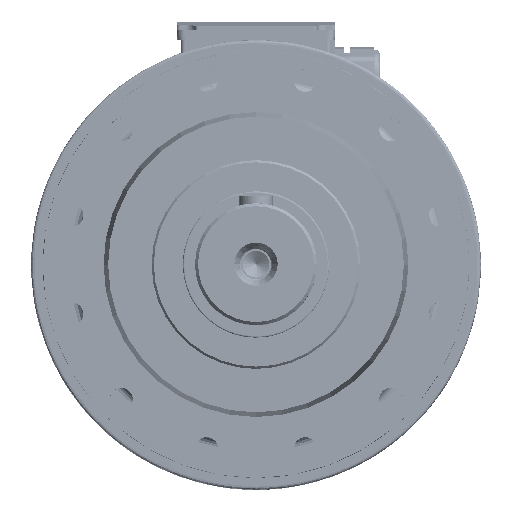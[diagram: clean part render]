
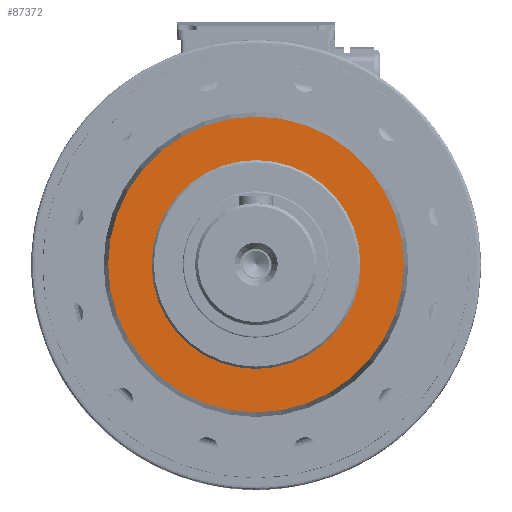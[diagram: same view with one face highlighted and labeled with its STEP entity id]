
A CAD part, top view. The second image highlights one B-rep face of the part: STEP entity #87372.
In plain terms, the highlighted planar face has unit normal (0, 0, 1).
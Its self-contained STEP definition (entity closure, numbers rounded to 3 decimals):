
#8075 = FACE_OUTER_BOUND ( 'NONE', #213147, .T. ) ;
#8203 = FACE_BOUND ( 'NONE', #213225, .T. ) ;
#11146 = CIRCLE ( 'NONE', #231836, 68.5 ) ;
#11493 = CIRCLE ( 'NONE', #232011, 97. ) ;
#12035 = CIRCLE ( 'NONE', #232447, 97. ) ;
#12372 = CIRCLE ( 'NONE', #232644, 68.5 ) ;
#66514 = CARTESIAN_POINT ( 'NONE',  ( 0., 97., 147. ) ) ;
#66580 = PLANE ( 'NONE',  #285345 ) ;
#66585 = DIRECTION ( 'NONE',  ( 0., 0., -1. ) ) ;
#66588 = DIRECTION ( 'NONE',  ( 0., 1., 0. ) ) ;
#75961 = DIRECTION ( 'NONE',  ( 0., 0., -1. ) ) ;
#76009 = DIRECTION ( 'NONE',  ( 0., 1., 0. ) ) ;
#76018 = CARTESIAN_POINT ( 'NONE',  ( 0., 0., 147. ) ) ;
#76551 = CARTESIAN_POINT ( 'NONE',  ( 0., 0., 147. ) ) ;
#76564 = DIRECTION ( 'NONE',  ( -1., 0., 0. ) ) ;
#76641 = DIRECTION ( 'NONE',  ( 0., 0., 1. ) ) ;
#87372 = ADVANCED_FACE ( 'NONE', ( #8203, #8075 ), #66580, .F. ) ;
#124693 = ORIENTED_EDGE ( 'NONE', *, *, #232675, .F. ) ;
#124761 = ORIENTED_EDGE ( 'NONE', *, *, #232451, .F. ) ;
#124789 = ORIENTED_EDGE ( 'NONE', *, *, #232466, .F. ) ;
#124832 = ORIENTED_EDGE ( 'NONE', *, *, #232767, .F. ) ;
#146885 = VERTEX_POINT ( 'NONE', #155121 ) ;
#146894 = VERTEX_POINT ( 'NONE', #155147 ) ;
#146941 = VERTEX_POINT ( 'NONE', #155157 ) ;
#147004 = VERTEX_POINT ( 'NONE', #155246 ) ;
#155121 = CARTESIAN_POINT ( 'NONE',  ( 68.5, 0., 147. ) ) ;
#155147 = CARTESIAN_POINT ( 'NONE',  ( 0., 97., 147. ) ) ;
#155157 = CARTESIAN_POINT ( 'NONE',  ( 0., -97., 147. ) ) ;
#155246 = CARTESIAN_POINT ( 'NONE',  ( -68.5, 0., 147. ) ) ;
#213147 = EDGE_LOOP ( 'NONE', ( #124789, #124693 ) ) ;
#213225 = EDGE_LOOP ( 'NONE', ( #124832, #124761 ) ) ;
#231836 = AXIS2_PLACEMENT_3D ( 'NONE', #288963, #288967, #288996 ) ;
#232011 = AXIS2_PLACEMENT_3D ( 'NONE', #289144, #289081, #289128 ) ;
#232447 = AXIS2_PLACEMENT_3D ( 'NONE', #76018, #75961, #76009 ) ;
#232451 = EDGE_CURVE ( 'NONE', #146885, #147004, #11146, .T. ) ;
#232466 = EDGE_CURVE ( 'NONE', #146894, #146941, #11493, .T. ) ;
#232644 = AXIS2_PLACEMENT_3D ( 'NONE', #76551, #76641, #76564 ) ;
#232675 = EDGE_CURVE ( 'NONE', #146941, #146894, #12035, .T. ) ;
#232767 = EDGE_CURVE ( 'NONE', #147004, #146885, #12372, .T. ) ;
#285345 = AXIS2_PLACEMENT_3D ( 'NONE', #66514, #66585, #66588 ) ;
#288963 = CARTESIAN_POINT ( 'NONE',  ( 0., 0., 147. ) ) ;
#288967 = DIRECTION ( 'NONE',  ( 0., 0., 1. ) ) ;
#288996 = DIRECTION ( 'NONE',  ( -1., 0., 0. ) ) ;
#289081 = DIRECTION ( 'NONE',  ( 0., 0., -1. ) ) ;
#289128 = DIRECTION ( 'NONE',  ( 0., 1., 0. ) ) ;
#289144 = CARTESIAN_POINT ( 'NONE',  ( 0., 0., 147. ) ) ;
